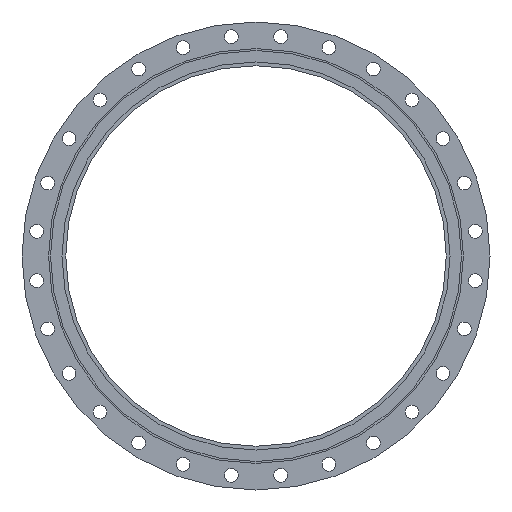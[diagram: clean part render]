
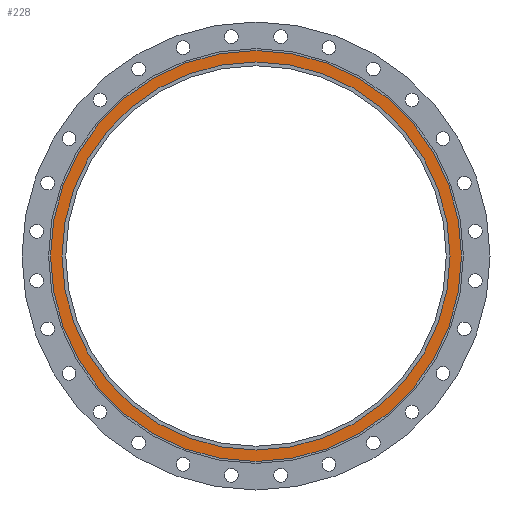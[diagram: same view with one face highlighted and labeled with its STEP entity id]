
A CAD part, left-side view. The second image highlights one B-rep face of the part: STEP entity #228.
In plain terms, the highlighted planar face has unit normal (-1, 0, 0).
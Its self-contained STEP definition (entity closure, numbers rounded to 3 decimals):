
#228=ADVANCED_FACE('',(#8431,#8433),#8435,.T.);
#8431=FACE_BOUND('',#8432,.T.);
#8432=EDGE_LOOP('',(#15917,#15918));
#8433=FACE_BOUND('',#8434,.T.);
#8434=EDGE_LOOP('',(#15919,#15920));
#8435=PLANE('',#8436);
#8436=AXIS2_PLACEMENT_3D('',#8437,#8438,#8439);
#8437=CARTESIAN_POINT('',(1206.089,26.044,0.));
#8438=DIRECTION('',(-1.,0.,0.));
#8439=DIRECTION('',(0.,0.,1.));
#15917=ORIENTED_EDGE('',*,*,#21105,.F.);
#15918=ORIENTED_EDGE('',*,*,#21106,.F.);
#15919=ORIENTED_EDGE('',*,*,#21103,.T.);
#15920=ORIENTED_EDGE('',*,*,#21104,.T.);
#21103=EDGE_CURVE('',#24557,#24558,#24559,.T.);
#21104=EDGE_CURVE('',#24558,#24557,#24560,.T.);
#21105=EDGE_CURVE('',#24561,#24562,#24563,.T.);
#21106=EDGE_CURVE('',#24562,#24561,#24564,.T.);
#24557=VERTEX_POINT('',#32898);
#24558=VERTEX_POINT('',#32899);
#24559=CIRCLE('',#32900,510.);
#24560=CIRCLE('',#32904,510.);
#24561=VERTEX_POINT('',#32908);
#24562=VERTEX_POINT('',#32909);
#24563=CIRCLE('',#32910,540.);
#24564=CIRCLE('',#32914,540.);
#32898=CARTESIAN_POINT('',(1206.089,56.044,0.));
#32899=CARTESIAN_POINT('',(1206.089,1076.044,0.));
#32900=AXIS2_PLACEMENT_3D('',#32901,#32902,#32903);
#32901=CARTESIAN_POINT('',(1206.089,566.044,0.));
#32902=DIRECTION('',(1.,0.,0.));
#32903=DIRECTION('',(0.,-1.,0.));
#32904=AXIS2_PLACEMENT_3D('',#32905,#32906,#32907);
#32905=CARTESIAN_POINT('',(1206.089,566.044,0.));
#32906=DIRECTION('',(1.,0.,0.));
#32907=DIRECTION('',(0.,1.,0.));
#32908=CARTESIAN_POINT('',(1206.089,1106.044,0.));
#32909=CARTESIAN_POINT('',(1206.089,26.044,0.));
#32910=AXIS2_PLACEMENT_3D('',#32911,#32912,#32913);
#32911=CARTESIAN_POINT('',(1206.089,566.044,0.));
#32912=DIRECTION('',(1.,0.,0.));
#32913=DIRECTION('',(0.,1.,0.));
#32914=AXIS2_PLACEMENT_3D('',#32915,#32916,#32917);
#32915=CARTESIAN_POINT('',(1206.089,566.044,0.));
#32916=DIRECTION('',(1.,0.,0.));
#32917=DIRECTION('',(0.,-1.,0.));
